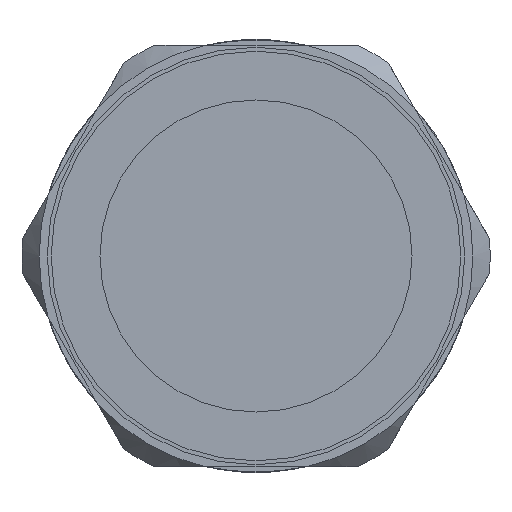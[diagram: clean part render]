
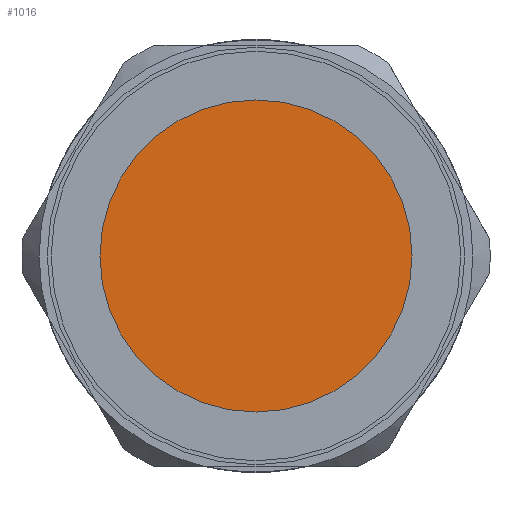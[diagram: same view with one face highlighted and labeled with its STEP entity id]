
A CAD part, left-side view. The second image highlights one B-rep face of the part: STEP entity #1016.
In plain terms, the highlighted planar face has unit normal (-1, 0, 0).
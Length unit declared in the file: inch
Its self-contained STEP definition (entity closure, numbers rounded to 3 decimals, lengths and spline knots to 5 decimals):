
#68=PLANE('',#1132);
#106=FACE_OUTER_BOUND('',#168,.T.);
#168=EDGE_LOOP('',(#720,#721));
#327=CIRCLE('',#1130,0.31496);
#328=CIRCLE('',#1131,0.31496);
#409=VERTEX_POINT('',#1635);
#410=VERTEX_POINT('',#1637);
#526=EDGE_CURVE('',#409,#410,#327,.T.);
#527=EDGE_CURVE('',#410,#409,#328,.T.);
#720=ORIENTED_EDGE('',*,*,#527,.F.);
#721=ORIENTED_EDGE('',*,*,#526,.F.);
#1016=ADVANCED_FACE('',(#106),#68,.T.);
#1130=AXIS2_PLACEMENT_3D('',#1638,#1337,#1338);
#1131=AXIS2_PLACEMENT_3D('',#1639,#1339,#1340);
#1132=AXIS2_PLACEMENT_3D('',#1640,#1341,#1342);
#1337=DIRECTION('center_axis',(1.,0.,0.));
#1338=DIRECTION('ref_axis',(0.,0.866,-0.5));
#1339=DIRECTION('center_axis',(1.,0.,0.));
#1340=DIRECTION('ref_axis',(0.,0.866,-0.5));
#1341=DIRECTION('center_axis',(-1.,0.,0.));
#1342=DIRECTION('ref_axis',(0.,0.866,-0.5));
#1635=CARTESIAN_POINT('',(-2.01786,-0.17146,-0.18686));
#1637=CARTESIAN_POINT('',(-2.01786,0.37407,-0.50182));
#1638=CARTESIAN_POINT('Origin',(-2.01786,0.1013,-0.34434));
#1639=CARTESIAN_POINT('Origin',(-2.01786,0.1013,-0.34434));
#1640=CARTESIAN_POINT('Origin',(-2.01786,0.1013,-0.34434));
